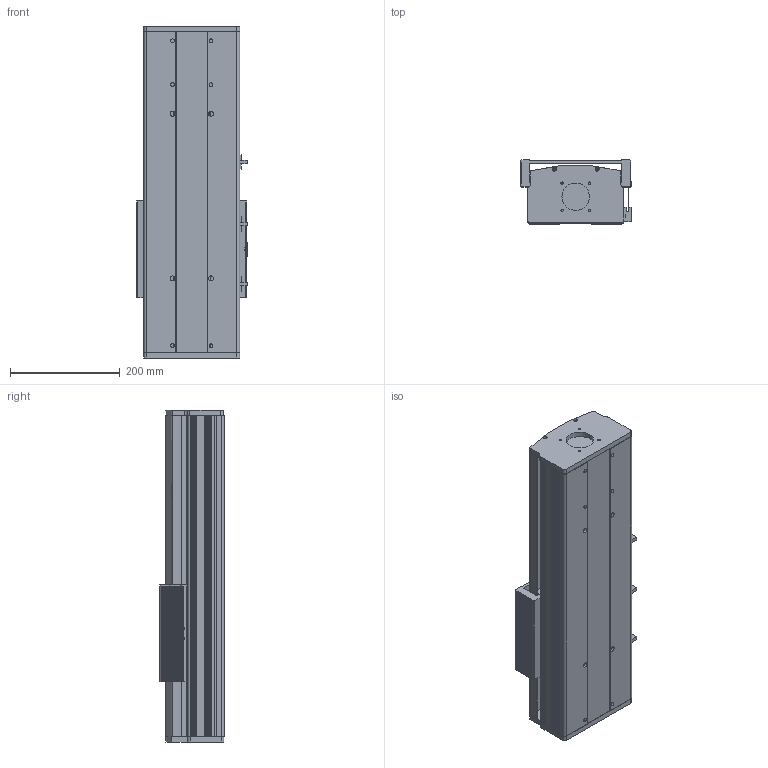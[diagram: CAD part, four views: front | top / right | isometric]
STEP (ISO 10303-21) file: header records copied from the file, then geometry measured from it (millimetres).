
FILE_DESCRIPTION (( 'STEP AP203' ), '1' );
FILE_NAME ('CF175B-C-250-FW.STEP', '2020-07-15T01:50:09', ( 'Micorosoft' ), ( 'Micorosoft' ), 'SwSTEP 2.0', 'SolidWorks 2016', '' );
FILE_SCHEMA (( 'CONFIG_CONTROL_DESIGN' ));
Length unit declared in the file: millimetre
Products named in the file (12): 75-86-95癹弇羲壽覜茼え; CF-EGH20CA賑輸; 175-2耜啣; 175B珨极嘐隅釱; 175-2盓傅釱; 嫖萇羲壽; CF175-2蹟譫釱; CF175B-C-250-FW; 175B裔啣-250; 175B臏倰第-250; EGR20絳寢-250; CF175-2賑雄啣
Assembly tree (17 placements, depth 2):
  CF175B-C-250-FW
    175-2耜啣
    175-2盓傅釱
    CF175-2蹟譫釱
    175B裔啣-250
    175B臏倰第-250
    EGR20絳寢-250  x2
    CF175-2賑雄啣
    75-86-95癹弇羲壽覜茼え
    CF-EGH20CA賑輸  x4
    175B珨极嘐隅釱
    嫖萇羲壽  x3
Bounding box: 201.1 x 116.8 x 605 mm (x, y, z)
Volume: 6048364.8 mm3; surface area: 1449042.1 mm2
Topology: 23 solids, 23 shells, 1247 faces, 3306 edges, 2196 vertices
Faces by surface type: plane 681, cylinder 560, cone 4, bspline 2
Entity records: 30682 total; most frequent: DIRECTION 5213, CARTESIAN_POINT 5203, ORIENTED_EDGE 4876, EDGE_CURVE 2438, AXIS2_PLACEMENT_3D 1870, VERTEX_POINT 1620, LINE 1473, VECTOR 1473
